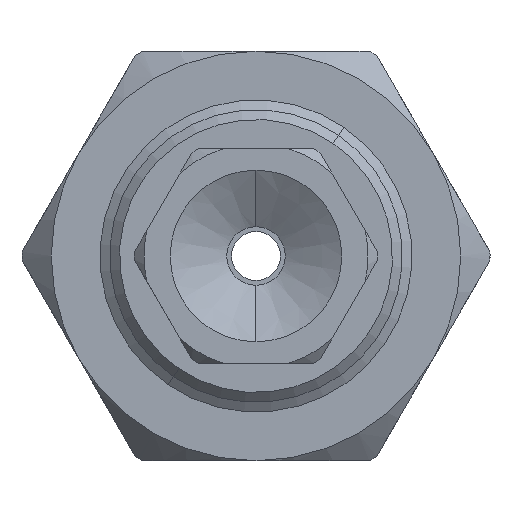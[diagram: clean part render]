
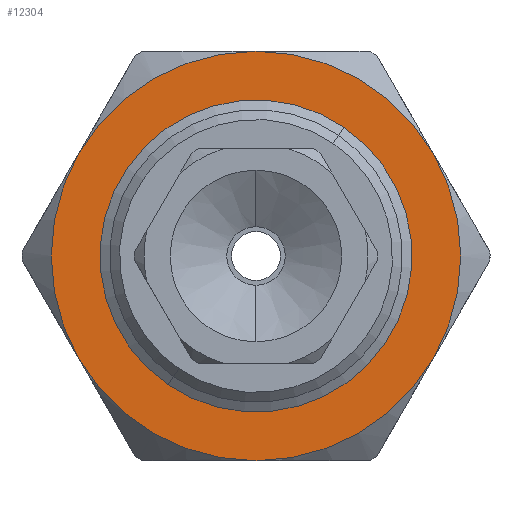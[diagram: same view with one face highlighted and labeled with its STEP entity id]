
A CAD part, front view. The second image highlights one B-rep face of the part: STEP entity #12304.
In plain terms, the highlighted planar face has unit normal (0, -1, 0).
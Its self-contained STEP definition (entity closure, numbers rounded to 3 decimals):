
#310 = CARTESIAN_POINT ( 'NONE',  ( -4., -40.4, 6. ) ) ;
#673 = VERTEX_POINT ( 'NONE', #6254 ) ;
#1016 = DIRECTION ( 'NONE',  ( 0., -1., 0. ) ) ;
#1194 = AXIS2_PLACEMENT_3D ( 'NONE', #23988, #10532, #26248 ) ;
#1486 = FACE_OUTER_BOUND ( 'NONE', #24508, .T. ) ;
#1533 = ORIENTED_EDGE ( 'NONE', *, *, #21382, .T. ) ;
#2177 = VERTEX_POINT ( 'NONE', #14612 ) ;
#2589 = PLANE ( 'NONE',  #26744 ) ;
#2606 = DIRECTION ( 'NONE',  ( -0.866, 0., 0.5 ) ) ;
#3895 = CARTESIAN_POINT ( 'NONE',  ( -13.093, -40.4, 11.25 ) ) ;
#4305 = AXIS2_PLACEMENT_3D ( 'NONE', #25049, #11593, #27314 ) ;
#4420 = EDGE_CURVE ( 'NONE', #6293, #27538, #8939, .T. ) ;
#6254 = CARTESIAN_POINT ( 'NONE',  ( 2.279, -40.4, 2.375 ) ) ;
#6293 = VERTEX_POINT ( 'NONE', #3895 ) ;
#6773 = FACE_BOUND ( 'NONE', #23512, .T. ) ;
#6941 = VERTEX_POINT ( 'NONE', #19616 ) ;
#7180 = ORIENTED_EDGE ( 'NONE', *, *, #22326, .T. ) ;
#7202 = DIRECTION ( 'NONE',  ( 0., 1., 0. ) ) ;
#7406 = DIRECTION ( 'NONE',  ( 0., -1., 0. ) ) ;
#7466 = CIRCLE ( 'NONE', #18020, 10.5 ) ;
#7765 = EDGE_CURVE ( 'NONE', #25221, #18249, #18343, .T. ) ;
#8136 = CARTESIAN_POINT ( 'NONE',  ( -4., -40.4, 16.5 ) ) ;
#8510 = CIRCLE ( 'NONE', #1194, 10.5 ) ;
#8939 = CIRCLE ( 'NONE', #25101, 10.5 ) ;
#9201 = ORIENTED_EDGE ( 'NONE', *, *, #13026, .T. ) ;
#9627 = DIRECTION ( 'NONE',  ( 0., 1., 0. ) ) ;
#9853 = AXIS2_PLACEMENT_3D ( 'NONE', #26645, #13170, #28864 ) ;
#9949 = DIRECTION ( 'NONE',  ( 0., -1., 0. ) ) ;
#10039 = CIRCLE ( 'NONE', #27771, 7.25 ) ;
#10419 = EDGE_CURVE ( 'NONE', #2177, #14898, #7466, .T. ) ;
#10532 = DIRECTION ( 'NONE',  ( 0., -1., 0. ) ) ;
#11593 = DIRECTION ( 'NONE',  ( 0., -1., 0. ) ) ;
#12304 = ADVANCED_FACE ( 'NONE', ( #6773, #1486 ), #2589, .F. ) ;
#13026 = EDGE_CURVE ( 'NONE', #14898, #25221, #13560, .T. ) ;
#13170 = DIRECTION ( 'NONE',  ( 0., 1., 0. ) ) ;
#13560 = CIRCLE ( 'NONE', #15276, 10.5 ) ;
#14253 = CIRCLE ( 'NONE', #9853, 7.25 ) ;
#14475 = CARTESIAN_POINT ( 'NONE',  ( -4., -40.4, 6. ) ) ;
#14612 = CARTESIAN_POINT ( 'NONE',  ( -4., -40.4, -4.5 ) ) ;
#14898 = VERTEX_POINT ( 'NONE', #18542 ) ;
#15276 = AXIS2_PLACEMENT_3D ( 'NONE', #14475, #1016, #16757 ) ;
#15679 = EDGE_CURVE ( 'NONE', #18249, #6293, #22413, .T. ) ;
#16054 = DIRECTION ( 'NONE',  ( 0., -1., 0. ) ) ;
#16757 = DIRECTION ( 'NONE',  ( -0.866, 0., 0.5 ) ) ;
#18020 = AXIS2_PLACEMENT_3D ( 'NONE', #310, #16054, #2606 ) ;
#18249 = VERTEX_POINT ( 'NONE', #8136 ) ;
#18343 = CIRCLE ( 'NONE', #4305, 10.5 ) ;
#18542 = CARTESIAN_POINT ( 'NONE',  ( 5.093, -40.4, 0.75 ) ) ;
#19189 = ORIENTED_EDGE ( 'NONE', *, *, #10419, .T. ) ;
#19616 = CARTESIAN_POINT ( 'NONE',  ( -10.279, -40.4, 9.625 ) ) ;
#20696 = CARTESIAN_POINT ( 'NONE',  ( -4., -40.4, 6. ) ) ;
#20879 = CARTESIAN_POINT ( 'NONE',  ( -4., -40.4, 6. ) ) ;
#21382 = EDGE_CURVE ( 'NONE', #673, #6941, #14253, .T. ) ;
#22326 = EDGE_CURVE ( 'NONE', #27538, #2177, #8510, .T. ) ;
#22413 = CIRCLE ( 'NONE', #22801, 10.5 ) ;
#22801 = AXIS2_PLACEMENT_3D ( 'NONE', #23420, #9949, #25666 ) ;
#22807 = EDGE_CURVE ( 'NONE', #6941, #673, #10039, .T. ) ;
#22891 = ORIENTED_EDGE ( 'NONE', *, *, #4420, .T. ) ;
#22921 = DIRECTION ( 'NONE',  ( -0.866, 0., 0.5 ) ) ;
#23085 = CARTESIAN_POINT ( 'NONE',  ( -4., -40.4, 6. ) ) ;
#23134 = DIRECTION ( 'NONE',  ( -0.866, 0., 0.5 ) ) ;
#23420 = CARTESIAN_POINT ( 'NONE',  ( -4., -40.4, 6. ) ) ;
#23512 = EDGE_LOOP ( 'NONE', ( #24061, #1533 ) ) ;
#23988 = CARTESIAN_POINT ( 'NONE',  ( -4., -40.4, 6. ) ) ;
#24061 = ORIENTED_EDGE ( 'NONE', *, *, #22807, .T. ) ;
#24508 = EDGE_LOOP ( 'NONE', ( #9201, #25206, #25911, #22891, #7180, #19189 ) ) ;
#25049 = CARTESIAN_POINT ( 'NONE',  ( -4., -40.4, 6. ) ) ;
#25101 = AXIS2_PLACEMENT_3D ( 'NONE', #20879, #7406, #23134 ) ;
#25206 = ORIENTED_EDGE ( 'NONE', *, *, #7765, .T. ) ;
#25221 = VERTEX_POINT ( 'NONE', #25614 ) ;
#25326 = DIRECTION ( 'NONE',  ( -0.866, 0., 0.5 ) ) ;
#25614 = CARTESIAN_POINT ( 'NONE',  ( 5.093, -40.4, 11.25 ) ) ;
#25666 = DIRECTION ( 'NONE',  ( -0.866, 0., 0.5 ) ) ;
#25911 = ORIENTED_EDGE ( 'NONE', *, *, #15679, .T. ) ;
#26248 = DIRECTION ( 'NONE',  ( -0.866, 0., 0.5 ) ) ;
#26645 = CARTESIAN_POINT ( 'NONE',  ( -4., -40.4, 6. ) ) ;
#26744 = AXIS2_PLACEMENT_3D ( 'NONE', #20696, #7202, #22921 ) ;
#27314 = DIRECTION ( 'NONE',  ( -0.866, 0., 0.5 ) ) ;
#27538 = VERTEX_POINT ( 'NONE', #27919 ) ;
#27771 = AXIS2_PLACEMENT_3D ( 'NONE', #23085, #9627, #25326 ) ;
#27919 = CARTESIAN_POINT ( 'NONE',  ( -13.093, -40.4, 0.75 ) ) ;
#28864 = DIRECTION ( 'NONE',  ( -0.866, 0., 0.5 ) ) ;
